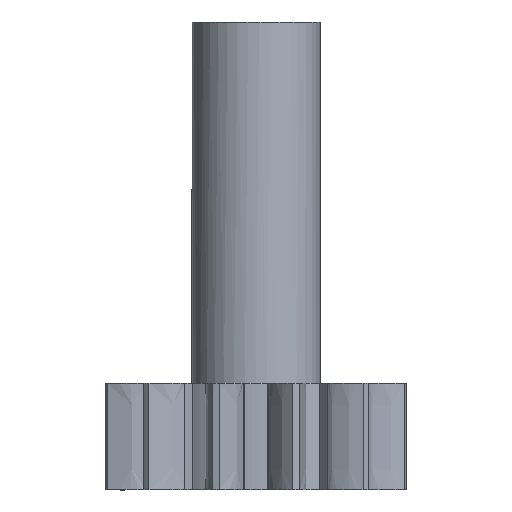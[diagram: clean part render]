
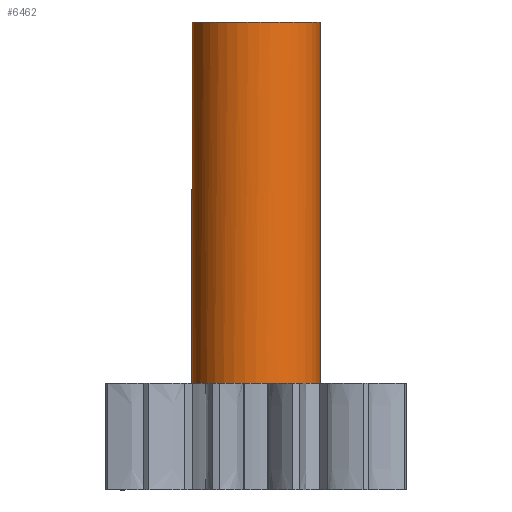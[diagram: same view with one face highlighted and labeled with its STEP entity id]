
A CAD part, front view. The second image highlights one B-rep face of the part: STEP entity #6462.
In plain terms, the highlighted cylindrical face has radius 3 mm (diameter 6 mm), a full revolution.
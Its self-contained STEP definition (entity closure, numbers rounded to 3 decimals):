
#72 = PLANE('',#73);
#73 = AXIS2_PLACEMENT_3D('',#74,#75,#76);
#74 = CARTESIAN_POINT('',(0.,0.,
    5.));
#75 = DIRECTION('',(0.,0.,1.));
#76 = DIRECTION('',(1.,0.,-0.));
#4536 = EDGE_CURVE('',#4537,#4537,#4539,.T.);
#4537 = VERTEX_POINT('',#4538);
#4538 = CARTESIAN_POINT('',(3.,0.,5.));
#4539 = SURFACE_CURVE('',#4540,(#4545,#4552),.PCURVE_S1.);
#4540 = CIRCLE('',#4541,3.);
#4541 = AXIS2_PLACEMENT_3D('',#4542,#4543,#4544);
#4542 = CARTESIAN_POINT('',(0.,0.,5.));
#4543 = DIRECTION('',(0.,0.,1.));
#4544 = DIRECTION('',(1.,0.,-0.));
#4545 = PCURVE('',#72,#4546);
#4546 = DEFINITIONAL_REPRESENTATION('',(#4547),#4551);
#4547 = CIRCLE('',#4548,3.);
#4548 = AXIS2_PLACEMENT_2D('',#4549,#4550);
#4549 = CARTESIAN_POINT('',(0.,0.));
#4550 = DIRECTION('',(1.,0.));
#4551 = ( GEOMETRIC_REPRESENTATION_CONTEXT(2) 
PARAMETRIC_REPRESENTATION_CONTEXT() REPRESENTATION_CONTEXT('2D SPACE',''
  ) );
#4552 = PCURVE('',#4553,#4558);
#4553 = CYLINDRICAL_SURFACE('',#4554,3.);
#4554 = AXIS2_PLACEMENT_3D('',#4555,#4556,#4557);
#4555 = CARTESIAN_POINT('',(0.,0.,4.9));
#4556 = DIRECTION('',(0.,0.,1.));
#4557 = DIRECTION('',(1.,0.,-0.));
#4558 = DEFINITIONAL_REPRESENTATION('',(#4559),#4563);
#4559 = LINE('',#4560,#4561);
#4560 = CARTESIAN_POINT('',(0.,0.1));
#4561 = VECTOR('',#4562,1.);
#4562 = DIRECTION('',(1.,0.));
#4563 = ( GEOMETRIC_REPRESENTATION_CONTEXT(2) 
PARAMETRIC_REPRESENTATION_CONTEXT() REPRESENTATION_CONTEXT('2D SPACE',''
  ) );
#6428 = PLANE('',#6429);
#6429 = AXIS2_PLACEMENT_3D('',#6430,#6431,#6432);
#6430 = CARTESIAN_POINT('',(0.,0.,21.9));
#6431 = DIRECTION('',(0.,0.,1.));
#6432 = DIRECTION('',(1.,0.,-0.));
#6462 = ADVANCED_FACE('',(#6463),#4553,.T.);
#6463 = FACE_BOUND('',#6464,.T.);
#6464 = EDGE_LOOP('',(#6465,#6466,#6489,#6513,#6541,#6570,#6593,#6615));
#6465 = ORIENTED_EDGE('',*,*,#4536,.T.);
#6466 = ORIENTED_EDGE('',*,*,#6467,.T.);
#6467 = EDGE_CURVE('',#4537,#6468,#6470,.T.);
#6468 = VERTEX_POINT('',#6469);
#6469 = CARTESIAN_POINT('',(3.,0.,21.9));
#6470 = SEAM_CURVE('',#6471,(#6475,#6482),.PCURVE_S1.);
#6471 = LINE('',#6472,#6473);
#6472 = CARTESIAN_POINT('',(3.,0.,4.9));
#6473 = VECTOR('',#6474,1.);
#6474 = DIRECTION('',(0.,0.,1.));
#6475 = PCURVE('',#4553,#6476);
#6476 = DEFINITIONAL_REPRESENTATION('',(#6477),#6481);
#6477 = LINE('',#6478,#6479);
#6478 = CARTESIAN_POINT('',(0.,-0.));
#6479 = VECTOR('',#6480,1.);
#6480 = DIRECTION('',(0.,1.));
#6481 = ( GEOMETRIC_REPRESENTATION_CONTEXT(2) 
PARAMETRIC_REPRESENTATION_CONTEXT() REPRESENTATION_CONTEXT('2D SPACE',''
  ) );
#6482 = PCURVE('',#4553,#6483);
#6483 = DEFINITIONAL_REPRESENTATION('',(#6484),#6488);
#6484 = LINE('',#6485,#6486);
#6485 = CARTESIAN_POINT('',(6.283,-0.));
#6486 = VECTOR('',#6487,1.);
#6487 = DIRECTION('',(0.,1.));
#6488 = ( GEOMETRIC_REPRESENTATION_CONTEXT(2) 
PARAMETRIC_REPRESENTATION_CONTEXT() REPRESENTATION_CONTEXT('2D SPACE',''
  ) );
#6489 = ORIENTED_EDGE('',*,*,#6490,.F.);
#6490 = EDGE_CURVE('',#6491,#6468,#6493,.T.);
#6491 = VERTEX_POINT('',#6492);
#6492 = CARTESIAN_POINT('',(-1.8,2.4,21.9));
#6493 = SURFACE_CURVE('',#6494,(#6499,#6506),.PCURVE_S1.);
#6494 = CIRCLE('',#6495,3.);
#6495 = AXIS2_PLACEMENT_3D('',#6496,#6497,#6498);
#6496 = CARTESIAN_POINT('',(0.,0.,21.9));
#6497 = DIRECTION('',(0.,0.,1.));
#6498 = DIRECTION('',(1.,0.,-0.));
#6499 = PCURVE('',#4553,#6500);
#6500 = DEFINITIONAL_REPRESENTATION('',(#6501),#6505);
#6501 = LINE('',#6502,#6503);
#6502 = CARTESIAN_POINT('',(0.,17.));
#6503 = VECTOR('',#6504,1.);
#6504 = DIRECTION('',(1.,0.));
#6505 = ( GEOMETRIC_REPRESENTATION_CONTEXT(2) 
PARAMETRIC_REPRESENTATION_CONTEXT() REPRESENTATION_CONTEXT('2D SPACE',''
  ) );
#6506 = PCURVE('',#6428,#6507);
#6507 = DEFINITIONAL_REPRESENTATION('',(#6508),#6512);
#6508 = CIRCLE('',#6509,3.);
#6509 = AXIS2_PLACEMENT_2D('',#6510,#6511);
#6510 = CARTESIAN_POINT('',(0.,0.));
#6511 = DIRECTION('',(1.,0.));
#6512 = ( GEOMETRIC_REPRESENTATION_CONTEXT(2) 
PARAMETRIC_REPRESENTATION_CONTEXT() REPRESENTATION_CONTEXT('2D SPACE',''
  ) );
#6513 = ORIENTED_EDGE('',*,*,#6514,.F.);
#6514 = EDGE_CURVE('',#6515,#6491,#6517,.T.);
#6515 = VERTEX_POINT('',#6516);
#6516 = CARTESIAN_POINT('',(-1.8,2.4,18.3));
#6517 = SURFACE_CURVE('',#6518,(#6522,#6529),.PCURVE_S1.);
#6518 = LINE('',#6519,#6520);
#6519 = CARTESIAN_POINT('',(-1.8,2.4,4.9));
#6520 = VECTOR('',#6521,1.);
#6521 = DIRECTION('',(0.,0.,1.));
#6522 = PCURVE('',#4553,#6523);
#6523 = DEFINITIONAL_REPRESENTATION('',(#6524),#6528);
#6524 = LINE('',#6525,#6526);
#6525 = CARTESIAN_POINT('',(2.214,0.));
#6526 = VECTOR('',#6527,1.);
#6527 = DIRECTION('',(0.,1.));
#6528 = ( GEOMETRIC_REPRESENTATION_CONTEXT(2) 
PARAMETRIC_REPRESENTATION_CONTEXT() REPRESENTATION_CONTEXT('2D SPACE',''
  ) );
#6529 = PCURVE('',#6530,#6535);
#6530 = PLANE('',#6531);
#6531 = AXIS2_PLACEMENT_3D('',#6532,#6533,#6534);
#6532 = CARTESIAN_POINT('',(-4.,2.4,18.3));
#6533 = DIRECTION('',(-0.,1.,0.));
#6534 = DIRECTION('',(0.,0.,1.));
#6535 = DEFINITIONAL_REPRESENTATION('',(#6536),#6540);
#6536 = LINE('',#6537,#6538);
#6537 = CARTESIAN_POINT('',(-13.4,2.2));
#6538 = VECTOR('',#6539,1.);
#6539 = DIRECTION('',(1.,0.));
#6540 = ( GEOMETRIC_REPRESENTATION_CONTEXT(2) 
PARAMETRIC_REPRESENTATION_CONTEXT() REPRESENTATION_CONTEXT('2D SPACE',''
  ) );
#6541 = ORIENTED_EDGE('',*,*,#6542,.F.);
#6542 = EDGE_CURVE('',#6543,#6515,#6545,.T.);
#6543 = VERTEX_POINT('',#6544);
#6544 = CARTESIAN_POINT('',(1.8,2.4,18.3));
#6545 = SURFACE_CURVE('',#6546,(#6551,#6558),.PCURVE_S1.);
#6546 = CIRCLE('',#6547,3.);
#6547 = AXIS2_PLACEMENT_3D('',#6548,#6549,#6550);
#6548 = CARTESIAN_POINT('',(0.,0.,18.3));
#6549 = DIRECTION('',(0.,0.,1.));
#6550 = DIRECTION('',(1.,0.,-0.));
#6551 = PCURVE('',#4553,#6552);
#6552 = DEFINITIONAL_REPRESENTATION('',(#6553),#6557);
#6553 = LINE('',#6554,#6555);
#6554 = CARTESIAN_POINT('',(0.,13.4));
#6555 = VECTOR('',#6556,1.);
#6556 = DIRECTION('',(1.,0.));
#6557 = ( GEOMETRIC_REPRESENTATION_CONTEXT(2) 
PARAMETRIC_REPRESENTATION_CONTEXT() REPRESENTATION_CONTEXT('2D SPACE',''
  ) );
#6558 = PCURVE('',#6559,#6564);
#6559 = PLANE('',#6560);
#6560 = AXIS2_PLACEMENT_3D('',#6561,#6562,#6563);
#6561 = CARTESIAN_POINT('',(-4.,2.4,18.3));
#6562 = DIRECTION('',(0.,0.,1.));
#6563 = DIRECTION('',(1.,0.,-0.));
#6564 = DEFINITIONAL_REPRESENTATION('',(#6565),#6569);
#6565 = CIRCLE('',#6566,3.);
#6566 = AXIS2_PLACEMENT_2D('',#6567,#6568);
#6567 = CARTESIAN_POINT('',(4.,-2.4));
#6568 = DIRECTION('',(1.,0.));
#6569 = ( GEOMETRIC_REPRESENTATION_CONTEXT(2) 
PARAMETRIC_REPRESENTATION_CONTEXT() REPRESENTATION_CONTEXT('2D SPACE',''
  ) );
#6570 = ORIENTED_EDGE('',*,*,#6571,.T.);
#6571 = EDGE_CURVE('',#6543,#6572,#6574,.T.);
#6572 = VERTEX_POINT('',#6573);
#6573 = CARTESIAN_POINT('',(1.8,2.4,21.9));
#6574 = SURFACE_CURVE('',#6575,(#6579,#6586),.PCURVE_S1.);
#6575 = LINE('',#6576,#6577);
#6576 = CARTESIAN_POINT('',(1.8,2.4,4.9));
#6577 = VECTOR('',#6578,1.);
#6578 = DIRECTION('',(0.,0.,1.));
#6579 = PCURVE('',#4553,#6580);
#6580 = DEFINITIONAL_REPRESENTATION('',(#6581),#6585);
#6581 = LINE('',#6582,#6583);
#6582 = CARTESIAN_POINT('',(0.927,0.));
#6583 = VECTOR('',#6584,1.);
#6584 = DIRECTION('',(0.,1.));
#6585 = ( GEOMETRIC_REPRESENTATION_CONTEXT(2) 
PARAMETRIC_REPRESENTATION_CONTEXT() REPRESENTATION_CONTEXT('2D SPACE',''
  ) );
#6586 = PCURVE('',#6530,#6587);
#6587 = DEFINITIONAL_REPRESENTATION('',(#6588),#6592);
#6588 = LINE('',#6589,#6590);
#6589 = CARTESIAN_POINT('',(-13.4,5.8));
#6590 = VECTOR('',#6591,1.);
#6591 = DIRECTION('',(1.,0.));
#6592 = ( GEOMETRIC_REPRESENTATION_CONTEXT(2) 
PARAMETRIC_REPRESENTATION_CONTEXT() REPRESENTATION_CONTEXT('2D SPACE',''
  ) );
#6593 = ORIENTED_EDGE('',*,*,#6594,.F.);
#6594 = EDGE_CURVE('',#6468,#6572,#6595,.T.);
#6595 = SURFACE_CURVE('',#6596,(#6601,#6608),.PCURVE_S1.);
#6596 = CIRCLE('',#6597,3.);
#6597 = AXIS2_PLACEMENT_3D('',#6598,#6599,#6600);
#6598 = CARTESIAN_POINT('',(0.,0.,21.9));
#6599 = DIRECTION('',(0.,0.,1.));
#6600 = DIRECTION('',(1.,0.,-0.));
#6601 = PCURVE('',#4553,#6602);
#6602 = DEFINITIONAL_REPRESENTATION('',(#6603),#6607);
#6603 = LINE('',#6604,#6605);
#6604 = CARTESIAN_POINT('',(0.,17.));
#6605 = VECTOR('',#6606,1.);
#6606 = DIRECTION('',(1.,0.));
#6607 = ( GEOMETRIC_REPRESENTATION_CONTEXT(2) 
PARAMETRIC_REPRESENTATION_CONTEXT() REPRESENTATION_CONTEXT('2D SPACE',''
  ) );
#6608 = PCURVE('',#6428,#6609);
#6609 = DEFINITIONAL_REPRESENTATION('',(#6610),#6614);
#6610 = CIRCLE('',#6611,3.);
#6611 = AXIS2_PLACEMENT_2D('',#6612,#6613);
#6612 = CARTESIAN_POINT('',(0.,0.));
#6613 = DIRECTION('',(1.,0.));
#6614 = ( GEOMETRIC_REPRESENTATION_CONTEXT(2) 
PARAMETRIC_REPRESENTATION_CONTEXT() REPRESENTATION_CONTEXT('2D SPACE',''
  ) );
#6615 = ORIENTED_EDGE('',*,*,#6467,.F.);
